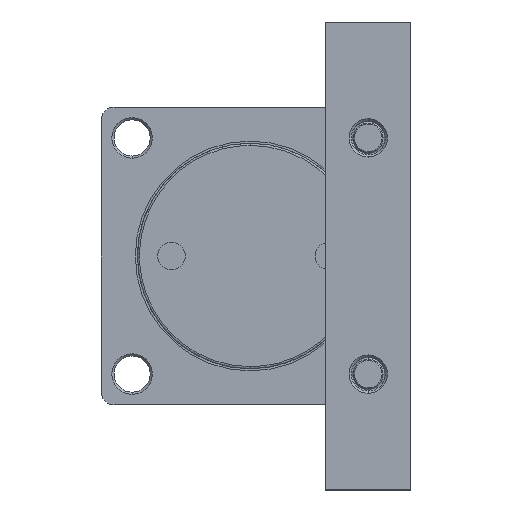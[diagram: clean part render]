
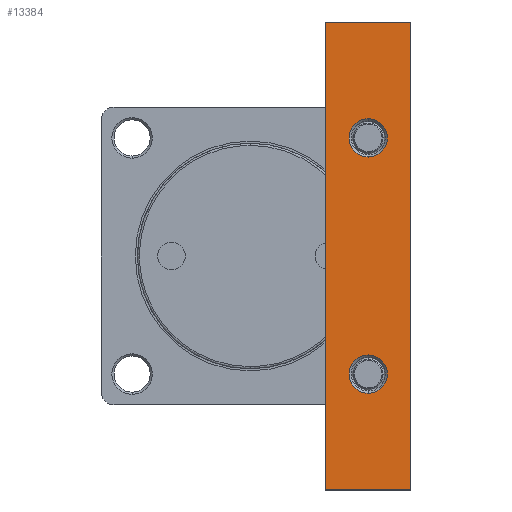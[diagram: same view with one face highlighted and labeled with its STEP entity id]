
A CAD part, left-side view. The second image highlights one B-rep face of the part: STEP entity #13384.
In plain terms, the highlighted planar face has unit normal (1, 0, 0).
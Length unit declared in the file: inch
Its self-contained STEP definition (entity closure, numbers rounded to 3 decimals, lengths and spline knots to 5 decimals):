
#51 = DIRECTION ( 'NONE',  ( 0., 1., 0. ) ) ;
#283 = CARTESIAN_POINT ( 'NONE',  ( -2.61811, -2.97244, -4.33071 ) ) ;
#376 = CARTESIAN_POINT ( 'NONE',  ( -2.61811, -2.97244, -4.33071 ) ) ;
#647 = DIRECTION ( 'NONE',  ( 0., 0., 1. ) ) ;
#991 = EDGE_CURVE ( 'NONE', #2841, #10426, #7052, .T. ) ;
#1548 = VERTEX_POINT ( 'NONE', #7438 ) ;
#1868 = ORIENTED_EDGE ( 'NONE', *, *, #3346, .T. ) ;
#2085 = ORIENTED_EDGE ( 'NONE', *, *, #2919, .T. ) ;
#2452 = CARTESIAN_POINT ( 'NONE',  ( -2.61811, -2.97244, 4.33071 ) ) ;
#2583 = DIRECTION ( 'NONE',  ( 0., 0., 1. ) ) ;
#2620 = CARTESIAN_POINT ( 'NONE',  ( -2.61811, -2.18504, -2.18504 ) ) ;
#2629 = CIRCLE ( 'NONE', #6853, 0.35433 ) ;
#2691 = LINE ( 'NONE', #2452, #4227 ) ;
#2780 = EDGE_CURVE ( 'NONE', #3188, #12965, #5714, .T. ) ;
#2841 = VERTEX_POINT ( 'NONE', #14066 ) ;
#2919 = EDGE_CURVE ( 'NONE', #4043, #6144, #2691, .T. ) ;
#2987 = CARTESIAN_POINT ( 'NONE',  ( -2.61811, -2.18504, -1.83071 ) ) ;
#3013 = EDGE_CURVE ( 'NONE', #1548, #3798, #2629, .T. ) ;
#3188 = VERTEX_POINT ( 'NONE', #376 ) ;
#3200 = VECTOR ( 'NONE', #51, 39.37008 ) ;
#3346 = EDGE_CURVE ( 'NONE', #12965, #4043, #4668, .T. ) ;
#3453 = EDGE_CURVE ( 'NONE', #6144, #3188, #5147, .T. ) ;
#3798 = VERTEX_POINT ( 'NONE', #11287 ) ;
#4043 = VERTEX_POINT ( 'NONE', #6650 ) ;
#4227 = VECTOR ( 'NONE', #9817, 39.37008 ) ;
#4249 = AXIS2_PLACEMENT_3D ( 'NONE', #13822, #13808, #13787 ) ;
#4288 = ORIENTED_EDGE ( 'NONE', *, *, #6476, .T. ) ;
#4668 = LINE ( 'NONE', #13613, #4775 ) ;
#4775 = VECTOR ( 'NONE', #13555, 39.37008 ) ;
#4790 = AXIS2_PLACEMENT_3D ( 'NONE', #9845, #9756, #9742 ) ;
#4873 = EDGE_LOOP ( 'NONE', ( #13253, #4288 ) ) ;
#4941 = EDGE_LOOP ( 'NONE', ( #1868, #2085, #6458, #11377 ) ) ;
#5053 = DIRECTION ( 'NONE',  ( -1., 0., 0. ) ) ;
#5147 = LINE ( 'NONE', #13058, #5198 ) ;
#5198 = VECTOR ( 'NONE', #13050, 39.37008 ) ;
#5236 = ORIENTED_EDGE ( 'NONE', *, *, #991, .T. ) ;
#5714 = LINE ( 'NONE', #283, #3200 ) ;
#5767 = FACE_OUTER_BOUND ( 'NONE', #4941, .T. ) ;
#5785 = AXIS2_PLACEMENT_3D ( 'NONE', #2620, #5053, #2583 ) ;
#5808 = FACE_BOUND ( 'NONE', #4873, .T. ) ;
#5829 = FACE_BOUND ( 'NONE', #6100, .T. ) ;
#6100 = EDGE_LOOP ( 'NONE', ( #14256, #5236 ) ) ;
#6144 = VERTEX_POINT ( 'NONE', #10506 ) ;
#6458 = ORIENTED_EDGE ( 'NONE', *, *, #3453, .T. ) ;
#6476 = EDGE_CURVE ( 'NONE', #3798, #1548, #8972, .T. ) ;
#6650 = CARTESIAN_POINT ( 'NONE',  ( -2.61811, -1.39764, 4.33071 ) ) ;
#6853 = AXIS2_PLACEMENT_3D ( 'NONE', #14084, #13274, #647 ) ;
#7052 = CIRCLE ( 'NONE', #5785, 0.35433 ) ;
#7438 = CARTESIAN_POINT ( 'NONE',  ( -2.61811, -2.18504, 2.53937 ) ) ;
#8930 = AXIS2_PLACEMENT_3D ( 'NONE', #9140, #9124, #9106 ) ;
#8972 = CIRCLE ( 'NONE', #8930, 0.35433 ) ;
#9106 = DIRECTION ( 'NONE',  ( 0., 0., 1. ) ) ;
#9124 = DIRECTION ( 'NONE',  ( -1., 0., 0. ) ) ;
#9140 = CARTESIAN_POINT ( 'NONE',  ( -2.61811, -2.18504, 2.18504 ) ) ;
#9742 = DIRECTION ( 'NONE',  ( 0., 0., -1. ) ) ;
#9756 = DIRECTION ( 'NONE',  ( 1., 0., 0. ) ) ;
#9817 = DIRECTION ( 'NONE',  ( 0., -1., 0. ) ) ;
#9845 = CARTESIAN_POINT ( 'NONE',  ( -2.61811, -2.97244, 4.33071 ) ) ;
#9852 = PLANE ( 'NONE',  #4790 ) ;
#10426 = VERTEX_POINT ( 'NONE', #2987 ) ;
#10506 = CARTESIAN_POINT ( 'NONE',  ( -2.61811, -2.97244, 4.33071 ) ) ;
#11003 = CIRCLE ( 'NONE', #4249, 0.35433 ) ;
#11287 = CARTESIAN_POINT ( 'NONE',  ( -2.61811, -2.18504, 1.83071 ) ) ;
#11377 = ORIENTED_EDGE ( 'NONE', *, *, #2780, .T. ) ;
#12958 = EDGE_CURVE ( 'NONE', #10426, #2841, #11003, .T. ) ;
#12965 = VERTEX_POINT ( 'NONE', #14058 ) ;
#13050 = DIRECTION ( 'NONE',  ( 0., 0., -1. ) ) ;
#13058 = CARTESIAN_POINT ( 'NONE',  ( -2.61811, -2.97244, 4.33071 ) ) ;
#13253 = ORIENTED_EDGE ( 'NONE', *, *, #3013, .T. ) ;
#13274 = DIRECTION ( 'NONE',  ( -1., 0., 0. ) ) ;
#13384 = ADVANCED_FACE ( 'NONE', ( #5767, #5808, #5829 ), #9852, .T. ) ;
#13555 = DIRECTION ( 'NONE',  ( 0., 0., 1. ) ) ;
#13613 = CARTESIAN_POINT ( 'NONE',  ( -2.61811, -1.39764, 4.33071 ) ) ;
#13787 = DIRECTION ( 'NONE',  ( 0., 0., 1. ) ) ;
#13808 = DIRECTION ( 'NONE',  ( -1., 0., 0. ) ) ;
#13822 = CARTESIAN_POINT ( 'NONE',  ( -2.61811, -2.18504, -2.18504 ) ) ;
#14058 = CARTESIAN_POINT ( 'NONE',  ( -2.61811, -1.39764, -4.33071 ) ) ;
#14066 = CARTESIAN_POINT ( 'NONE',  ( -2.61811, -2.18504, -2.53937 ) ) ;
#14084 = CARTESIAN_POINT ( 'NONE',  ( -2.61811, -2.18504, 2.18504 ) ) ;
#14256 = ORIENTED_EDGE ( 'NONE', *, *, #12958, .T. ) ;
